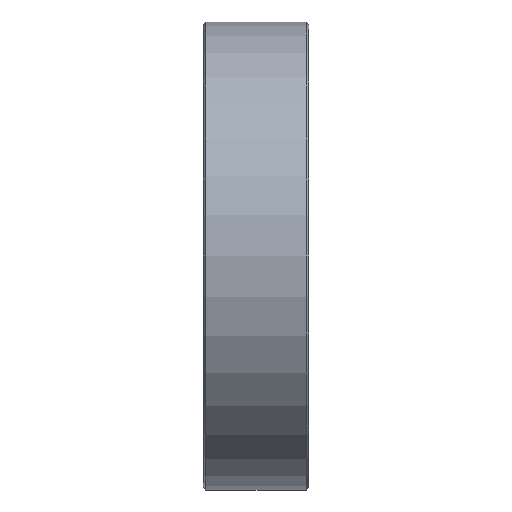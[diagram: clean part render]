
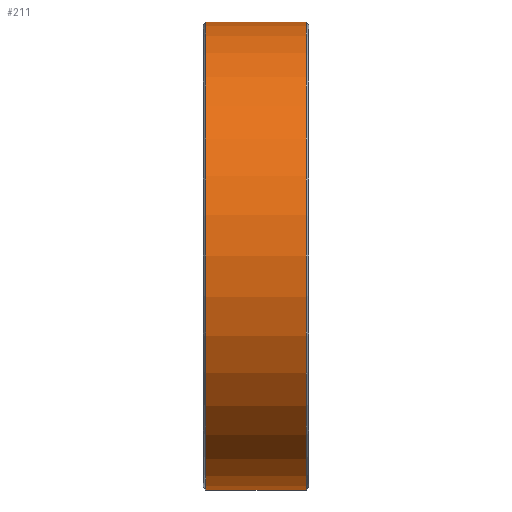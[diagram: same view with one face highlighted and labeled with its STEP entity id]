
A CAD part, left-side view. The second image highlights one B-rep face of the part: STEP entity #211.
In plain terms, the highlighted cylindrical face has radius 41.275 mm (diameter 82.55 mm), a partial arc.
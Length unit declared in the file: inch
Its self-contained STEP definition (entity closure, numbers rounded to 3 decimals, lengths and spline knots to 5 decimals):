
#46 = CARTESIAN_POINT ( 'NONE',  ( 0., 0.3475, -1.625 ) ) ;
#80 = VERTEX_POINT ( 'NONE', #450 ) ;
#81 = EDGE_CURVE ( 'NONE', #756, #156, #294, .T. ) ;
#110 = EDGE_CURVE ( 'NONE', #136, #80, #273, .T. ) ;
#130 = DIRECTION ( 'NONE',  ( 0., -1., 0. ) ) ;
#136 = VERTEX_POINT ( 'NONE', #46 ) ;
#147 = CARTESIAN_POINT ( 'NONE',  ( 0., 0.3675, -1.625 ) ) ;
#156 = VERTEX_POINT ( 'NONE', #661 ) ;
#180 = CIRCLE ( 'NONE', #702, 1.625 ) ;
#211 = ADVANCED_FACE ( 'NONE', ( #255 ), #249, .T. ) ;
#214 = CIRCLE ( 'NONE', #719, 1.625 ) ;
#249 = CYLINDRICAL_SURFACE ( 'NONE', #733, 1.625 ) ;
#255 = FACE_OUTER_BOUND ( 'NONE', #341, .T. ) ;
#272 = VECTOR ( 'NONE', #130, 39.37008 ) ;
#273 = LINE ( 'NONE', #147, #272 ) ;
#283 = EDGE_CURVE ( 'NONE', #80, #156, #214, .T. ) ;
#290 = VECTOR ( 'NONE', #326, 39.37008 ) ;
#294 = LINE ( 'NONE', #517, #290 ) ;
#313 = EDGE_CURVE ( 'NONE', #136, #756, #180, .T. ) ;
#321 = ORIENTED_EDGE ( 'NONE', *, *, #81, .F. ) ;
#326 = DIRECTION ( 'NONE',  ( 0., -1., 0. ) ) ;
#341 = EDGE_LOOP ( 'NONE', ( #321, #352, #354, #356 ) ) ;
#352 = ORIENTED_EDGE ( 'NONE', *, *, #313, .F. ) ;
#354 = ORIENTED_EDGE ( 'NONE', *, *, #110, .T. ) ;
#356 = ORIENTED_EDGE ( 'NONE', *, *, #283, .T. ) ;
#410 = CARTESIAN_POINT ( 'NONE',  ( 0., 0.3475, 1.625 ) ) ;
#450 = CARTESIAN_POINT ( 'NONE',  ( 0., -0.3475, -1.625 ) ) ;
#517 = CARTESIAN_POINT ( 'NONE',  ( 0., 0.3675, 1.625 ) ) ;
#536 = DIRECTION ( 'NONE',  ( 0., 0., -1. ) ) ;
#537 = DIRECTION ( 'NONE',  ( 0., 1., 0. ) ) ;
#538 = CARTESIAN_POINT ( 'NONE',  ( 0., 0.3475, 0. ) ) ;
#562 = DIRECTION ( 'NONE',  ( 0., 0., -1. ) ) ;
#563 = DIRECTION ( 'NONE',  ( 0., 1., 0. ) ) ;
#564 = CARTESIAN_POINT ( 'NONE',  ( 0., -0.3475, 0. ) ) ;
#644 = DIRECTION ( 'NONE',  ( 0., -1., 0. ) ) ;
#645 = CARTESIAN_POINT ( 'NONE',  ( 0., 0.3675, 0. ) ) ;
#646 = DIRECTION ( 'NONE',  ( 0., 0., -1. ) ) ;
#661 = CARTESIAN_POINT ( 'NONE',  ( 0., -0.3475, 1.625 ) ) ;
#702 = AXIS2_PLACEMENT_3D ( 'NONE', #538, #537, #536 ) ;
#719 = AXIS2_PLACEMENT_3D ( 'NONE', #564, #563, #562 ) ;
#733 = AXIS2_PLACEMENT_3D ( 'NONE', #645, #644, #646 ) ;
#756 = VERTEX_POINT ( 'NONE', #410 ) ;
